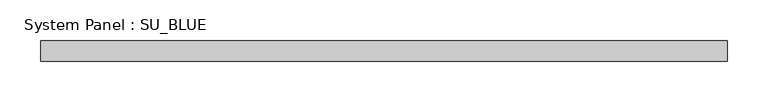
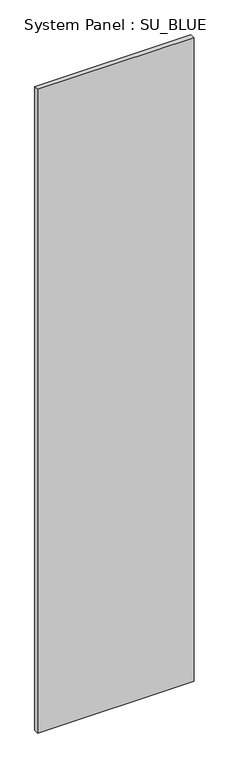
"""IFC4 building model written with IfcOpenShell, lengths in millimetres: plate geometry, System Panel : SU_BLUE."""

from ifc_helpers import new_model, si_unit, origin, origin_with_axes, place, context, project, spatial, polyline, outline, extrude, source, transform, mapped, element, save


def system_panel_su_blue_8cdae4af(model_context):
    return source(origin(), model_context, "Body", "SweptSolid", [
        extrude(outline(polyline([(420.7943243, 19.05), (-420.7943243, 19.05), (-420.7943243, 44.45), (420.7943243, 44.45), (420.7943243, 19.05)])), origin_with_axes(), (0.0, 0.0, 1.0), 3657.6),
    ])


if __name__ == "__main__":
    model = new_model("IFC4")
    model_context = context("Model", 3, world=origin())
    ifc_project = project(units=[si_unit("LENGTHUNIT", "METRE", prefix="MILLI")], contexts=[model_context])
    site = spatial("IfcSite", under=ifc_project)
    building = spatial("IfcBuilding", under=site)
    placement = place(None, origin())
    system_panel_su_blue_shape = system_panel_su_blue_8cdae4af(model_context)
    element("IfcPlate", 1, ObjectType="System Panel : SU_BLUE", at=placement, inside=building, context=model_context, shape_type="MappedRepresentation", body=[
        mapped(system_panel_su_blue_shape, transform((0.0, 0.0, 0.0), x_axis=(1.0, 0.0, 0.0), y_axis=(0.0, 1.0, 0.0), z_axis=(0.0, 0.0, 1.0))),
    ])
    save(model, "model.ifc")
